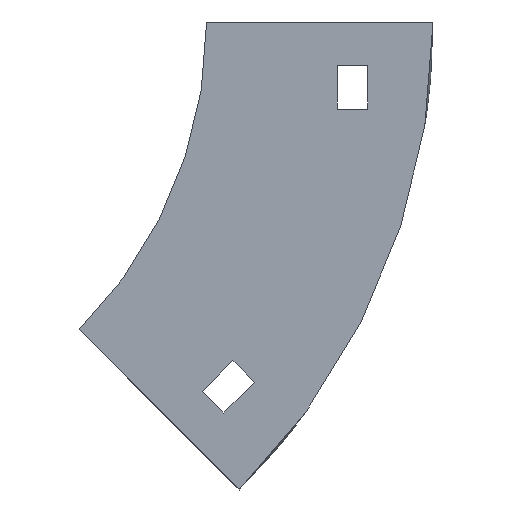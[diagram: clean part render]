
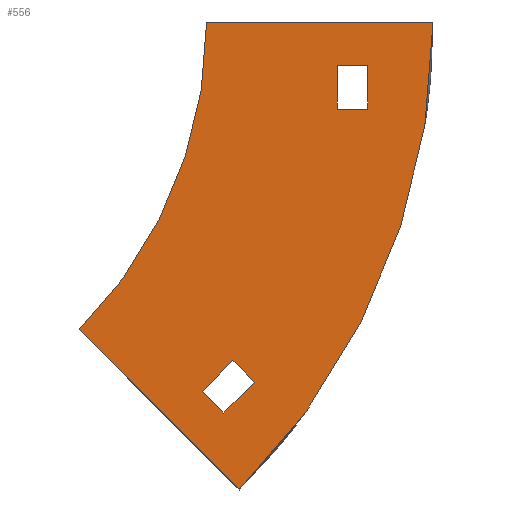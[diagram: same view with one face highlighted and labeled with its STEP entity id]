
A CAD part, left-side view. The second image highlights one B-rep face of the part: STEP entity #556.
In plain terms, the highlighted planar face has unit normal (-1, 0, 0).
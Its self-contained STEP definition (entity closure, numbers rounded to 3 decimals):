
#16 = CARTESIAN_POINT ( 'NONE',  ( -252., 1.005, -84.853 ) ) ;
#22 = AXIS2_PLACEMENT_3D ( 'NONE', #86, #698, #860 ) ;
#25 = CARTESIAN_POINT ( 'NONE',  ( -252., -52., 0. ) ) ;
#28 = VERTEX_POINT ( 'NONE', #431 ) ;
#31 = VERTEX_POINT ( 'NONE', #945 ) ;
#38 = EDGE_CURVE ( 'NONE', #289, #587, #405, .T. ) ;
#48 = EDGE_LOOP ( 'NONE', ( #532, #354, #445, #362 ) ) ;
#58 = CARTESIAN_POINT ( 'NONE',  ( -252., -30., -20. ) ) ;
#86 = CARTESIAN_POINT ( 'NONE',  ( -252., 100., 0. ) ) ;
#128 = DIRECTION ( 'NONE',  ( 0., 0., -1. ) ) ;
#136 = CARTESIAN_POINT ( 'NONE',  ( -252., -7.48, -107.48 ) ) ;
#155 = VECTOR ( 'NONE', #936, 1000. ) ;
#168 = AXIS2_PLACEMENT_3D ( 'NONE', #424, #694, #608 ) ;
#170 = EDGE_CURVE ( 'NONE', #587, #278, #748, .T. ) ;
#172 = EDGE_CURVE ( 'NONE', #988, #1006, #833, .T. ) ;
#174 = LINE ( 'NONE', #974, #968 ) ;
#180 = LINE ( 'NONE', #16, #1104 ) ;
#202 = DIRECTION ( 'NONE',  ( -1., 0., 0. ) ) ;
#215 = EDGE_CURVE ( 'NONE', #889, #1101, #765, .T. ) ;
#221 = VECTOR ( 'NONE', #471, 1000. ) ;
#229 = VECTOR ( 'NONE', #645, 1000. ) ;
#235 = DIRECTION ( 'NONE',  ( 0., 0.707, -0.707 ) ) ;
#253 = CARTESIAN_POINT ( 'NONE',  ( -252., -3.945, -89.803 ) ) ;
#266 = CIRCLE ( 'NONE', #168, 152. ) ;
#273 = EDGE_LOOP ( 'NONE', ( #373, #726, #545, #801 ) ) ;
#276 = VERTEX_POINT ( 'NONE', #935 ) ;
#278 = VERTEX_POINT ( 'NONE', #58 ) ;
#286 = LINE ( 'NONE', #25, #221 ) ;
#289 = VERTEX_POINT ( 'NONE', #1032 ) ;
#303 = VECTOR ( 'NONE', #493, 1000. ) ;
#316 = EDGE_CURVE ( 'NONE', #276, #289, #1084, .T. ) ;
#345 = CARTESIAN_POINT ( 'NONE',  ( -252., -37., -10. ) ) ;
#354 = ORIENTED_EDGE ( 'NONE', *, *, #667, .F. ) ;
#358 = AXIS2_PLACEMENT_3D ( 'NONE', #543, #202, #128 ) ;
#362 = ORIENTED_EDGE ( 'NONE', *, *, #689, .F. ) ;
#367 = DIRECTION ( 'NONE',  ( 0., -0.707, -0.707 ) ) ;
#373 = ORIENTED_EDGE ( 'NONE', *, *, #1074, .F. ) ;
#397 = CARTESIAN_POINT ( 'NONE',  ( -252., 1.005, -84.853 ) ) ;
#405 = LINE ( 'NONE', #345, #856 ) ;
#410 = EDGE_CURVE ( 'NONE', #278, #276, #174, .T. ) ;
#424 = CARTESIAN_POINT ( 'NONE',  ( -252., 100., 0. ) ) ;
#431 = CARTESIAN_POINT ( 'NONE',  ( -252., 0., 0. ) ) ;
#445 = ORIENTED_EDGE ( 'NONE', *, *, #577, .F. ) ;
#450 = EDGE_CURVE ( 'NONE', #1101, #988, #942, .T. ) ;
#456 = ORIENTED_EDGE ( 'NONE', *, *, #170, .T. ) ;
#465 = DIRECTION ( 'NONE',  ( 0., 0.707, 0.707 ) ) ;
#471 = DIRECTION ( 'NONE',  ( 0., -1., 0. ) ) ;
#473 = EDGE_LOOP ( 'NONE', ( #876, #896, #857, #456 ) ) ;
#481 = VERTEX_POINT ( 'NONE', #136 ) ;
#493 = DIRECTION ( 'NONE',  ( 0., 1., 0. ) ) ;
#503 = CARTESIAN_POINT ( 'NONE',  ( -252., -30., -20. ) ) ;
#505 = CARTESIAN_POINT ( 'NONE',  ( -252., -6.066, -77.782 ) ) ;
#509 = FACE_OUTER_BOUND ( 'NONE', #48, .T. ) ;
#514 = FACE_BOUND ( 'NONE', #273, .T. ) ;
#532 = ORIENTED_EDGE ( 'NONE', *, *, #688, .F. ) ;
#539 = CARTESIAN_POINT ( 'NONE',  ( -252., -30., -10. ) ) ;
#543 = CARTESIAN_POINT ( 'NONE',  ( -252., 100., 0. ) ) ;
#545 = ORIENTED_EDGE ( 'NONE', *, *, #450, .F. ) ;
#556 = ADVANCED_FACE ( 'NONE', ( #509, #1062, #514 ), #865, .F. ) ;
#561 = CARTESIAN_POINT ( 'NONE',  ( -252., -6.066, -77.782 ) ) ;
#577 = EDGE_CURVE ( 'NONE', #31, #481, #266, .T. ) ;
#587 = VERTEX_POINT ( 'NONE', #981 ) ;
#608 = DIRECTION ( 'NONE',  ( 0., 0., -1. ) ) ;
#611 = VECTOR ( 'NONE', #1019, 1000. ) ;
#616 = VERTEX_POINT ( 'NONE', #1070 ) ;
#645 = DIRECTION ( 'NONE',  ( 0., -1., 0. ) ) ;
#667 = EDGE_CURVE ( 'NONE', #481, #616, #1002, .T. ) ;
#688 = EDGE_CURVE ( 'NONE', #616, #28, #1124, .T. ) ;
#689 = EDGE_CURVE ( 'NONE', #28, #31, #286, .T. ) ;
#694 = DIRECTION ( 'NONE',  ( 1., 0., 0. ) ) ;
#698 = DIRECTION ( 'NONE',  ( 1., 0., 0. ) ) ;
#718 = VECTOR ( 'NONE', #465, 1000. ) ;
#721 = VECTOR ( 'NONE', #235, 1000. ) ;
#726 = ORIENTED_EDGE ( 'NONE', *, *, #172, .F. ) ;
#741 = CARTESIAN_POINT ( 'NONE',  ( -252., 29.289, -70.711 ) ) ;
#748 = LINE ( 'NONE', #503, #303 ) ;
#765 = LINE ( 'NONE', #253, #611 ) ;
#801 = ORIENTED_EDGE ( 'NONE', *, *, #215, .F. ) ;
#833 = LINE ( 'NONE', #397, #721 ) ;
#856 = VECTOR ( 'NONE', #1050, 1000. ) ;
#857 = ORIENTED_EDGE ( 'NONE', *, *, #38, .T. ) ;
#860 = DIRECTION ( 'NONE',  ( 0., 0., -1. ) ) ;
#865 = PLANE ( 'NONE',  #22 ) ;
#875 = CARTESIAN_POINT ( 'NONE',  ( -252., 1.005, -84.853 ) ) ;
#876 = ORIENTED_EDGE ( 'NONE', *, *, #410, .T. ) ;
#878 = CARTESIAN_POINT ( 'NONE',  ( -252., -11.016, -82.731 ) ) ;
#879 = DIRECTION ( 'NONE',  ( 0., 0., 1. ) ) ;
#889 = VERTEX_POINT ( 'NONE', #1011 ) ;
#896 = ORIENTED_EDGE ( 'NONE', *, *, #316, .T. ) ;
#935 = CARTESIAN_POINT ( 'NONE',  ( -252., -30., -10. ) ) ;
#936 = DIRECTION ( 'NONE',  ( 0., 0.707, 0.707 ) ) ;
#942 = LINE ( 'NONE', #561, #155 ) ;
#945 = CARTESIAN_POINT ( 'NONE',  ( -252., -52., 0. ) ) ;
#968 = VECTOR ( 'NONE', #879, 1000. ) ;
#974 = CARTESIAN_POINT ( 'NONE',  ( -252., -30., -10. ) ) ;
#981 = CARTESIAN_POINT ( 'NONE',  ( -252., -37., -20. ) ) ;
#988 = VERTEX_POINT ( 'NONE', #505 ) ;
#1002 = LINE ( 'NONE', #741, #718 ) ;
#1006 = VERTEX_POINT ( 'NONE', #875 ) ;
#1011 = CARTESIAN_POINT ( 'NONE',  ( -252., -3.945, -89.803 ) ) ;
#1019 = DIRECTION ( 'NONE',  ( 0., -0.707, 0.707 ) ) ;
#1032 = CARTESIAN_POINT ( 'NONE',  ( -252., -37., -10. ) ) ;
#1050 = DIRECTION ( 'NONE',  ( 0., 0., -1. ) ) ;
#1062 = FACE_BOUND ( 'NONE', #473, .T. ) ;
#1070 = CARTESIAN_POINT ( 'NONE',  ( -252., 29.289, -70.711 ) ) ;
#1074 = EDGE_CURVE ( 'NONE', #1006, #889, #180, .T. ) ;
#1084 = LINE ( 'NONE', #539, #229 ) ;
#1101 = VERTEX_POINT ( 'NONE', #878 ) ;
#1104 = VECTOR ( 'NONE', #367, 1000. ) ;
#1124 = CIRCLE ( 'NONE', #358, 100. ) ;
